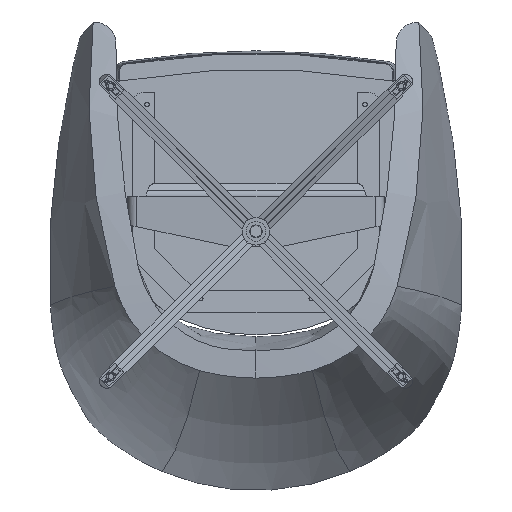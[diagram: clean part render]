
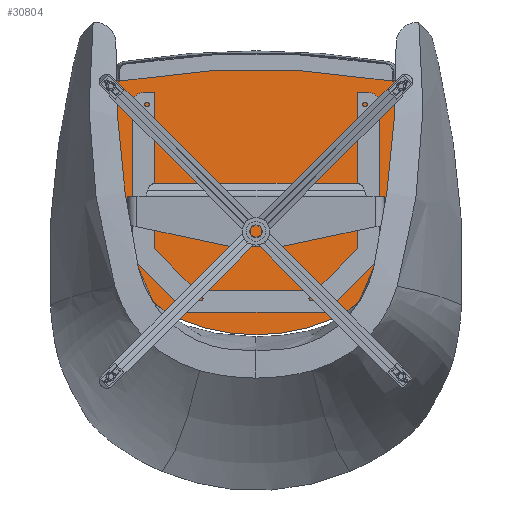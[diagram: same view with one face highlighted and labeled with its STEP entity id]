
A CAD part, front view. The second image highlights one B-rep face of the part: STEP entity #30804.
In plain terms, the highlighted planar face has unit normal (0, -0.996, 0.092).
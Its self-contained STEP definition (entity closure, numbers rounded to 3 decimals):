
#85 = CARTESIAN_POINT ( 'NONE',  ( -254.216, 351.143, 274.794 ) ) ;
#130 = CARTESIAN_POINT ( 'NONE',  ( -254.216, 351.143, 274.794 ) ) ;
#259 = CARTESIAN_POINT ( 'NONE',  ( -169.563, 312.509, -141.672 ) ) ;
#306 = EDGE_LOOP ( 'NONE', ( #26593, #1679, #10385 ) ) ;
#1548 = CARTESIAN_POINT ( 'NONE',  ( 103.908, 309.701, -171.943 ) ) ;
#1679 = ORIENTED_EDGE ( 'NONE', *, *, #19781, .F. ) ;
#1686 = CARTESIAN_POINT ( 'NONE',  ( 242.112, 330.424, 51.447 ) ) ;
#1930 = CARTESIAN_POINT ( 'NONE',  ( -170.046, 352.335, 287.635 ) ) ;
#3234 = VERTEX_POINT ( 'NONE', #27156 ) ;
#3390 = CARTESIAN_POINT ( 'NONE',  ( -144.484, 311.137, -156.461 ) ) ;
#4243 = B_SPLINE_CURVE_WITH_KNOTS ( 'NONE', 3,
 ( #35301, #13633, #13898, #35559, #16984, #38685, #20103, #1548, #23210, #4670, #26299, #7795, #29441, #10903, #32550, #14031, #35688, #17114, #38828, #20235, #1686, #23337, #4804, #26434, #7930 ),
 .UNSPECIFIED., .F., .F.,
 ( 4, 1, 1, 1, 1, 1, 1, 1, 2, 1, 1, 1, 1, 1, 1, 1, 2, 1, 1, 1, 4 ),
 ( 0., 0.021, 0.042, 0.063, 0.084, 0.105, 0.126, 0.148, 0.169, 0.186, 0.204, 0.221, 0.239, 0.256, 0.274, 0.291, 0.309, 0.4, 0.492, 0.584, 0.609 ),
 .UNSPECIFIED. ) ;
#4670 = CARTESIAN_POINT ( 'NONE',  ( 133.282, 310.688, -161.304 ) ) ;
#4804 = CARTESIAN_POINT ( 'NONE',  ( 253.869, 346.453, 224.236 ) ) ;
#5049 = CARTESIAN_POINT ( 'NONE',  ( -42.75, 353.189, 296.843 ) ) ;
#5539 = FACE_OUTER_BOUND ( 'NONE', #306, .T. ) ;
#6377 = CARTESIAN_POINT ( 'NONE',  ( -250.913, 339.535, 149.664 ) ) ;
#7185 = CARTESIAN_POINT ( 'NONE',  ( -254.216, 351.143, 274.794 ) ) ;
#7795 = CARTESIAN_POINT ( 'NONE',  ( 154.65, 311.607, -151.399 ) ) ;
#7930 = CARTESIAN_POINT ( 'NONE',  ( 254.216, 351.143, 274.794 ) ) ;
#8174 = CARTESIAN_POINT ( 'NONE',  ( 42.75, 353.189, 296.843 ) ) ;
#9494 = CARTESIAN_POINT ( 'NONE',  ( -233.014, 324.393, -13.569 ) ) ;
#10385 = ORIENTED_EDGE ( 'NONE', *, *, #26190, .T. ) ;
#10903 = CARTESIAN_POINT ( 'NONE',  ( 183.721, 313.613, -129.771 ) ) ;
#11276 = CARTESIAN_POINT ( 'NONE',  ( 85.308, 353.017, 294.99 ) ) ;
#11316 = CARTESIAN_POINT ( 'NONE',  ( 254.216, 351.143, 274.794 ) ) ;
#12332 = CARTESIAN_POINT ( 'NONE',  ( -86.784, 309.254, -176.762 ) ) ;
#12598 = CARTESIAN_POINT ( 'NONE',  ( -223.797, 319.67, -64.474 ) ) ;
#13633 = CARTESIAN_POINT ( 'NONE',  ( 6.107, 308.258, -187.494 ) ) ;
#13898 = CARTESIAN_POINT ( 'NONE',  ( 18.086, 308.287, -187.177 ) ) ;
#14031 = CARTESIAN_POINT ( 'NONE',  ( 207.893, 316.379, -99.957 ) ) ;
#14970 = DIRECTION ( 'NONE',  ( 0., -0.092, -0.996 ) ) ;
#15370 = B_SPLINE_CURVE_WITH_KNOTS ( 'NONE', 3,
 ( #22731, #20477, #23584, #27762, #18554, #30879, #12332, #37139, #15453, #25019, #3390, #21932, #259, #18815, #37402, #15710, #34276, #12598, #31142, #9494, #28032, #6377, #24886, #21795, #130 ),
 .UNSPECIFIED., .F., .F.,
 ( 4, 1, 1, 1, 1, 1, 1, 1, 2, 1, 1, 1, 1, 1, 1, 1, 2, 1, 1, 1, 4 ),
 ( 0., 0.021, 0.042, 0.063, 0.084, 0.105, 0.126, 0.148, 0.169, 0.186, 0.204, 0.221, 0.239, 0.256, 0.274, 0.291, 0.309, 0.4, 0.492, 0.584, 0.609 ),
 .UNSPECIFIED. ) ;
#15453 = CARTESIAN_POINT ( 'NONE',  ( -121.326, 310.246, -166.063 ) ) ;
#15710 = CARTESIAN_POINT ( 'NONE',  ( -207.893, 316.379, -99.957 ) ) ;
#16984 = CARTESIAN_POINT ( 'NONE',  ( 52.76, 308.614, -183.654 ) ) ;
#17114 = CARTESIAN_POINT ( 'NONE',  ( 223.797, 319.67, -64.474 ) ) ;
#17637 = EDGE_CURVE ( 'NONE', #30553, #33359, #27107, .T. ) ;
#17768 = CARTESIAN_POINT ( 'NONE',  ( -212.227, 351.824, 282.134 ) ) ;
#18554 = CARTESIAN_POINT ( 'NONE',  ( -52.76, 308.614, -183.654 ) ) ;
#18815 = CARTESIAN_POINT ( 'NONE',  ( -183.721, 313.613, -129.771 ) ) ;
#19781 = EDGE_CURVE ( 'NONE', #3234, #33359, #15370, .T. ) ;
#20103 = CARTESIAN_POINT ( 'NONE',  ( 86.784, 309.254, -176.762 ) ) ;
#20235 = CARTESIAN_POINT ( 'NONE',  ( 233.014, 324.393, -13.569 ) ) ;
#20477 = CARTESIAN_POINT ( 'NONE',  ( -6.107, 308.258, -187.494 ) ) ;
#21795 = CARTESIAN_POINT ( 'NONE',  ( -254.204, 350.324, 265.965 ) ) ;
#21932 = CARTESIAN_POINT ( 'NONE',  ( -154.65, 311.607, -151.399 ) ) ;
#22731 = CARTESIAN_POINT ( 'NONE',  ( 0., 308.258, -187.494 ) ) ;
#23210 = CARTESIAN_POINT ( 'NONE',  ( 121.326, 310.246, -166.063 ) ) ;
#23337 = CARTESIAN_POINT ( 'NONE',  ( 250.913, 339.535, 149.664 ) ) ;
#23584 = CARTESIAN_POINT ( 'NONE',  ( -18.086, 308.287, -187.177 ) ) ;
#24154 = CARTESIAN_POINT ( 'NONE',  ( -300., 306.411, -207.408 ) ) ;
#24886 = CARTESIAN_POINT ( 'NONE',  ( -253.869, 346.453, 224.236 ) ) ;
#25019 = CARTESIAN_POINT ( 'NONE',  ( -133.282, 310.688, -161.304 ) ) ;
#26190 = EDGE_CURVE ( 'NONE', #3234, #30553, #4243, .T. ) ;
#26299 = CARTESIAN_POINT ( 'NONE',  ( 144.484, 311.137, -156.461 ) ) ;
#26434 = CARTESIAN_POINT ( 'NONE',  ( 254.204, 350.324, 265.965 ) ) ;
#26593 = ORIENTED_EDGE ( 'NONE', *, *, #17637, .T. ) ;
#26824 = CARTESIAN_POINT ( 'NONE',  ( 212.227, 351.824, 282.134 ) ) ;
#27107 = B_SPLINE_CURVE_WITH_KNOTS ( 'NONE', 3,
 ( #39215, #26824, #29964, #11276, #8174, #5049, #39066, #1930, #17768, #7185 ),
 .UNSPECIFIED., .F., .F.,
 ( 4, 2, 2, 2, 4 ),
 ( -0.255, -0.128, 0., 0.128, 0.255 ),
 .UNSPECIFIED. ) ;
#27156 = CARTESIAN_POINT ( 'NONE',  ( 0., 308.258, -187.494 ) ) ;
#27276 = PLANE ( 'NONE',  #34069 ) ;
#27762 = CARTESIAN_POINT ( 'NONE',  ( -35.577, 308.412, -185.833 ) ) ;
#28032 = CARTESIAN_POINT ( 'NONE',  ( -242.112, 330.424, 51.447 ) ) ;
#29441 = CARTESIAN_POINT ( 'NONE',  ( 169.563, 312.509, -141.672 ) ) ;
#29964 = CARTESIAN_POINT ( 'NONE',  ( 170.046, 352.335, 287.635 ) ) ;
#30553 = VERTEX_POINT ( 'NONE', #11316 ) ;
#30804 = ADVANCED_FACE ( 'NONE', ( #5539 ), #27276, .T. ) ;
#30879 = CARTESIAN_POINT ( 'NONE',  ( -69.783, 308.894, -180.642 ) ) ;
#31142 = CARTESIAN_POINT ( 'NONE',  ( -226.647, 320.82, -52.084 ) ) ;
#32550 = CARTESIAN_POINT ( 'NONE',  ( 196.654, 314.91, -115.785 ) ) ;
#33359 = VERTEX_POINT ( 'NONE', #85 ) ;
#33523 = DIRECTION ( 'NONE',  ( 0., -0.996, 0.092 ) ) ;
#34069 = AXIS2_PLACEMENT_3D ( 'NONE', #24154, #33523, #14970 ) ;
#34276 = CARTESIAN_POINT ( 'NONE',  ( -217.033, 317.981, -82.683 ) ) ;
#35301 = CARTESIAN_POINT ( 'NONE',  ( 0., 308.258, -187.494 ) ) ;
#35559 = CARTESIAN_POINT ( 'NONE',  ( 35.577, 308.412, -185.833 ) ) ;
#35688 = CARTESIAN_POINT ( 'NONE',  ( 217.033, 317.981, -82.683 ) ) ;
#37139 = CARTESIAN_POINT ( 'NONE',  ( -103.908, 309.701, -171.943 ) ) ;
#37402 = CARTESIAN_POINT ( 'NONE',  ( -196.654, 314.91, -115.785 ) ) ;
#38685 = CARTESIAN_POINT ( 'NONE',  ( 69.783, 308.894, -180.642 ) ) ;
#38828 = CARTESIAN_POINT ( 'NONE',  ( 226.647, 320.82, -52.084 ) ) ;
#39066 = CARTESIAN_POINT ( 'NONE',  ( -85.308, 353.017, 294.99 ) ) ;
#39215 = CARTESIAN_POINT ( 'NONE',  ( 254.216, 351.143, 274.794 ) ) ;
